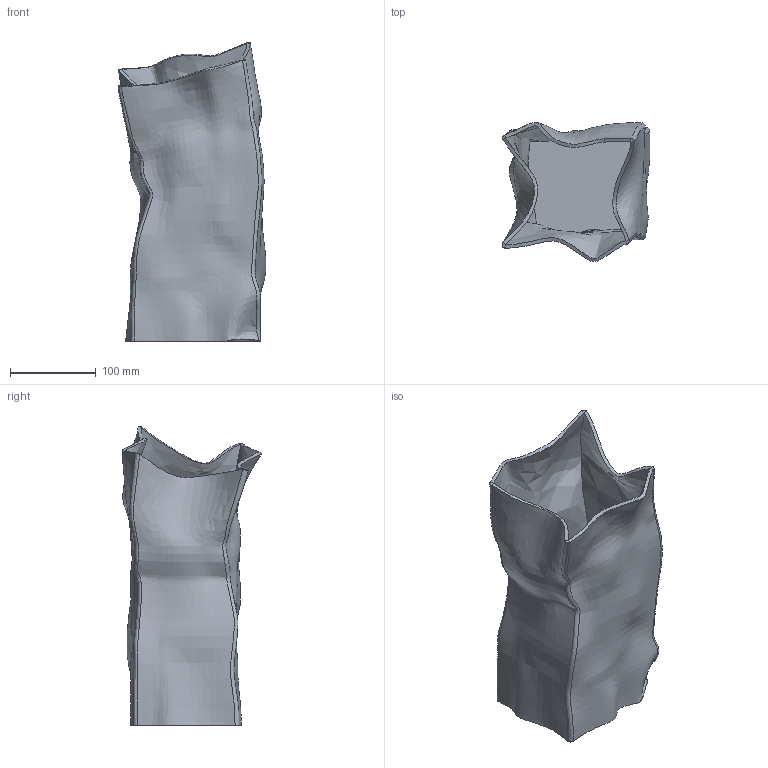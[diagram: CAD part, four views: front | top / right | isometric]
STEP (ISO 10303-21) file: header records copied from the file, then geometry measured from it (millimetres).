
FILE_DESCRIPTION(/* description */ (''),/* implementation_level */ '2;1');
FILE_NAME(/* name */ 'Kami Vase Medio',/* time_stamp */ '2023-10-24T13:53:36+02:00',/* author */ (''),/* organization */ (''),/* preprocessor_version */ 'ST-DEVELOPER v15',/* originating_system */ '',/* authorisation */ '');
FILE_SCHEMA (('AUTOMOTIVE_DESIGN'));
Length unit declared in the file: millimetre
Products named in the file (1): Document
Bounding box: 172.17 x 162.03 x 347.76 mm (x, y, z)
Volume: 738312.4 mm3; surface area: 375271.5 mm2
Topology: 2 solids, 2 shells, 30 faces, 64 edges, 37 vertices
Faces by surface type: bspline 22, plane 8
Entity records: 26641 total; most frequent: CARTESIAN_POINT 26199, ORIENTED_EDGE 128, EDGE_CURVE 64, B_SPLINE_CURVE_WITH_KNOTS 51, VERTEX_POINT 37, EDGE_LOOP 31, ADVANCED_FACE 30, FACE_OUTER_BOUND 30
